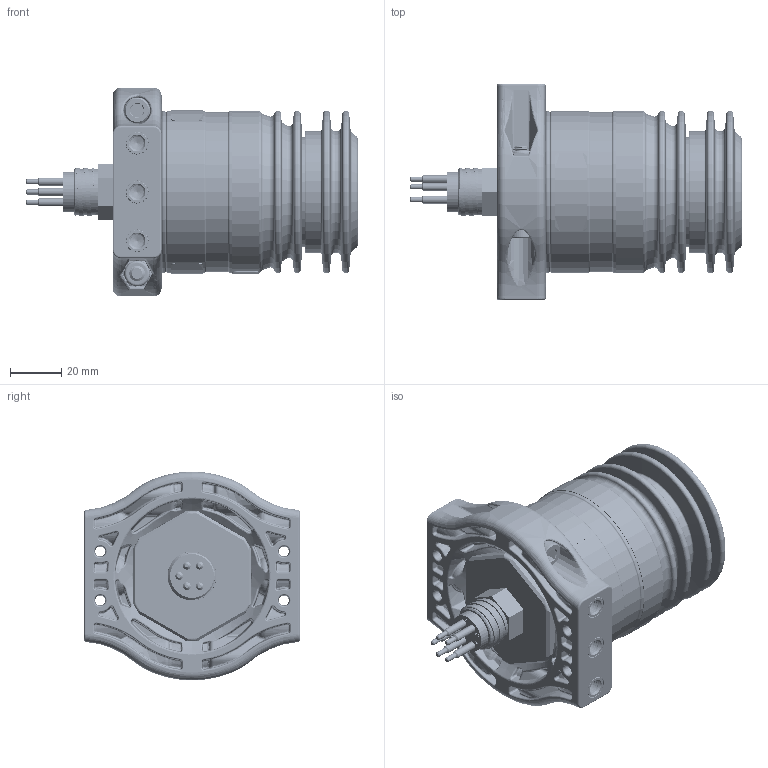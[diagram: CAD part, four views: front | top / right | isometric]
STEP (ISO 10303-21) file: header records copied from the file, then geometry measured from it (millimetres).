
FILE_DESCRIPTION (( 'STEP AP214' ), '1' );
FILE_NAME ('LSL-2000-DW00-FLD-AL-S-B-4-SUMCBH5MS-SOLID.STEP', '2026-07-20T18:32:19', ( '' ), ( '' ), 'SwSTEP 2.0', 'SolidWorks 2025', '' );
FILE_SCHEMA (( 'AUTOMOTIVE_DESIGN' ));
Length unit declared in the file: millimetre
Products named in the file (18): 712-050-0107-00_Graphite-Disk_39x.076_Connectorized LED PCBA; 774-004-0001-02_2-Piece_Collar_Bracket_.250-20_Full; LSL Port_Retainer_Short Featureless_Full; 140-00433_Sub-Conn_MCBH5M-SS-.4375-20_x_.750L_Full; 712-049-0034-00_Main_Wrap_Label_Wrapped; LSL Housing_2-Part Featureless_Aluminum; 712-050-0137-00_Port_Sapphire_40mm_DIA_x_7mm_THK_Full; 423-00064_M6x30_SHCS_316SS_92290A332; 773-360-0001-02_Molded-In-Insert_.250-20_Threads_Ti_Full; 520-01097_O-RING_M2.00_X_37.00_VITON_90_BLACK_Full; 520-01234_O-ring_Viton_2-014_Brown_75_DURO_(VW076 2-014)_Full; 793-003-0016-00_Zebra_Rectangle_Label_Stock_Formed; 420-00094_Hex-LockNut_Nylon-Ins_316SS_DIN985_94205A250; LSL-2000-DW00-FLD-AL-S-B-4-SUMCBH5MS-SOLID; 774-004-0003-02_2-Piece_Bracket_and_HW_Kit_Ti_.250-20_Full; 520-01102_O-RING_M3.00_x_41.00_BUNA_70_BLK_Full; 774-004-0001-01_SLS_Removable_Endcap_2-Piece_Bracket_REF_Full; LSl_Endcap Featureless_Full : NoHole-Blank
Assembly tree (23 placements, depth 4):
  LSL-2000-DW00-FLD-AL-S-B-4-SUMCBH5MS-SOLID
    140-00433_Sub-Conn_MCBH5M-SS-.4375-20_x_.750L_Full
    520-01234_O-ring_Viton_2-014_Brown_75_DURO_(VW076 2-014)_Full
    520-01097_O-RING_M2.00_X_37.00_VITON_90_BLACK_Full
    712-049-0034-00_Main_Wrap_Label_Wrapped
    712-050-0107-00_Graphite-Disk_39x.076_Connectorized LED PCBA
    712-050-0137-00_Port_Sapphire_40mm_DIA_x_7mm_THK_Full
    793-003-0016-00_Zebra_Rectangle_Label_Stock_Formed  x2
    774-004-0003-02_2-Piece_Bracket_and_HW_Kit_Ti_.250-20_Full
      774-004-0001-02_2-Piece_Collar_Bracket_.250-20_Full  x2
        774-004-0001-01_SLS_Removable_Endcap_2-Piece_Bracket_REF_Full
        773-360-0001-02_Molded-In-Insert_.250-20_Threads_Ti_Full
      423-00064_M6x30_SHCS_316SS_92290A332  x2
      420-00094_Hex-LockNut_Nylon-Ins_316SS_DIN985_94205A250  x2
      520-01102_O-RING_M3.00_x_41.00_BUNA_70_BLK_Full
    LSl_Endcap Featureless_Full : NoHole-Blank
    LSL Housing_2-Part Featureless_Aluminum
    LSL Port_Retainer_Short Featureless_Full
Bounding box: 129.27 x 84 x 81.28 mm (x, y, z)
Volume: 329543 mm3; surface area: 93300.3 mm2
Topology: 26 solids, 26 shells, 10534 faces, 26908 edges, 16472 vertices
Faces by surface type: bspline 7214, cylinder 1686, torus 660, cone 648, plane 306, sphere 20
Entity records: 182403 total; most frequent: CARTESIAN_POINT 121122, ORIENTED_EDGE 14996, DIRECTION 7743, EDGE_CURVE 7498, VERTEX_POINT 4539, AXIS2_PLACEMENT_3D 3347, EDGE_LOOP 3095, ADVANCED_FACE 3032
